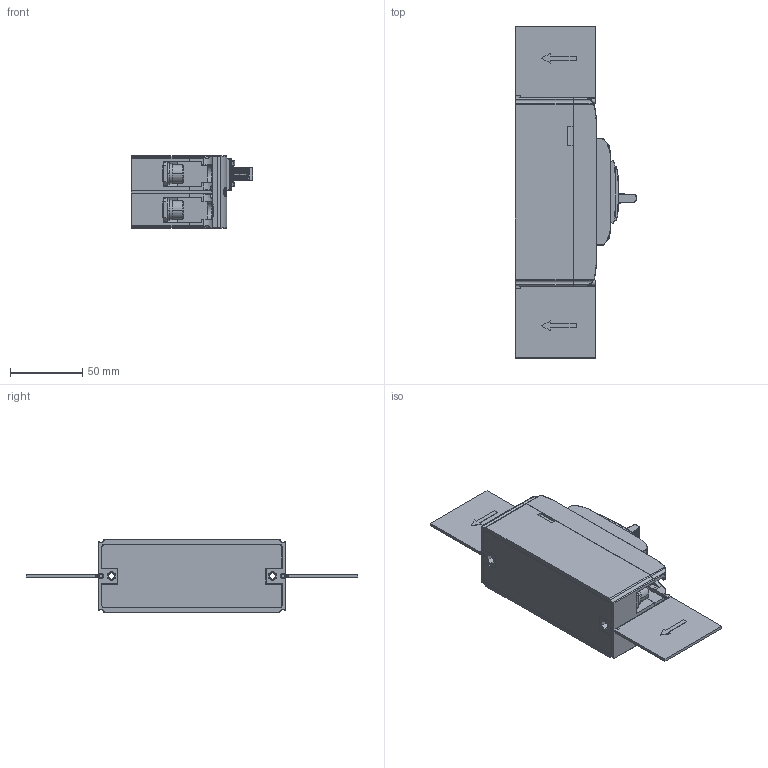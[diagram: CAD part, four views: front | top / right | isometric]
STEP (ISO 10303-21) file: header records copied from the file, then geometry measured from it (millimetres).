
FILE_DESCRIPTION((''),'2;1');
FILE_NAME('TGM1N-125-2P_ASM','2019-03-14T',('Administrator'),(''),'PRO/ENGINEER BY PARAMETRIC TECHNOLOGY CORPORATION, 2017170','PRO/ENGINEER BY PARAMETRIC TECHNOLOGY CORPORATION, 2017170','');
FILE_SCHEMA(('CONFIG_CONTROL_DESIGN'));
Products named in the file (34): 8TZD-024-1273_2; GB-T809-M3_5X10-B_2; 5TZD-024-1273_ASM_2_ASM; 8TZD-585-1222_2; 5TZD-552-1153_ASM_2_ASM; GB-T109-2X7_AF0_2; 5TZD-552-1154_ASM_2_ASM; 8TZD-585-1223_2; 5TZD-599-1156_AF0_ASM_2_ASM; 5TZD-599-1156_AF1_ASM_2_ASM; 5TZD-599-1159_ASM_2_ASM; 6TZD-760-1068_ASM_2_ASM; 8TZD-206-1298_2; 6TZD-716-1024_ASM_2_ASM; GB-T9074_4-M3X6_2; GB-T9074_4-M3X10_2; 8TZD-235-1056_2; 8TZD-234-1103_2; GB-T9074_4-M2_5X9_2; 8TZD-325-1051_2; 8TZD-742-1352_2; 8TZD-742-1353_2; Q-TZJ0301_1-M8X16_2; 8TZD-750-1116_2; 8TZD_253_3030_12; 8TZD-325-1048_1; 8TZD_315_3123_11; GB-T9074_4-M3_5X18_2; 8TZD-288-1368_AF0_1; 8TZD_253_3005_9; 8TZD_315_3111_9; 8TZD-742-1342_2; 1N-2P_ASM_2_ASM; TGM1N-125-2P_ASM
Assembly tree (50 placements, depth 6):
  TGM1N-125-2P_ASM
    1N-2P_ASM_2_ASM
      5TZD-024-1273_ASM_2_ASM
        8TZD-024-1273_2
        GB-T809-M3_5X10-B_2  x2
      5TZD-552-1154_ASM_2_ASM  x2
        5TZD-552-1153_ASM_2_ASM
          8TZD-585-1222_2
        GB-T109-2X7_AF0_2
      6TZD-716-1024_ASM_2_ASM
        5TZD-599-1159_ASM_2_ASM
          5TZD-599-1156_AF0_ASM_2_ASM
            8TZD-585-1223_2
          5TZD-599-1156_AF1_ASM_2_ASM
            8TZD-585-1223_2
        6TZD-760-1068_ASM_2_ASM
        8TZD-206-1298_2
      GB-T9074_4-M3X6_2  x6
      GB-T9074_4-M3X10_2  x2
      8TZD-235-1056_2  x2
      8TZD-234-1103_2
      GB-T9074_4-M2_5X9_2
      8TZD-325-1051_2
      8TZD-742-1352_2  x2
      8TZD-742-1353_2  x2
      Q-TZJ0301_1-M8X16_2  x4
      8TZD-750-1116_2
      8TZD_253_3030_12
      8TZD-325-1048_1
      8TZD_315_3123_11
      GB-T9074_4-M3_5X18_2  x2
      8TZD-288-1368_AF0_1
      8TZD_253_3005_9
      8TZD_315_3111_9
      8TZD-742-1342_2  x2
Bounding box: 83.83 x 229.9 x 50 mm (x, y, z)
Volume: 391670.7 mm3; surface area: 147896.9 mm2
Topology: 46 solids, 76 shells, 3009 faces, 8051 edges, 5257 vertices
Faces by surface type: plane 1970, cylinder 729, cone 106, bspline 74, torus 66, sphere 46, extrusion 18
Entity records: 91043 total; most frequent: CARTESIAN_POINT 29384, ORIENTED_EDGE 12984, DIRECTION 12384, EDGE_CURVE 6508, VECTOR 4376, LINE 4358, VERTEX_POINT 4268, AXIS2_PLACEMENT_3D 4004
